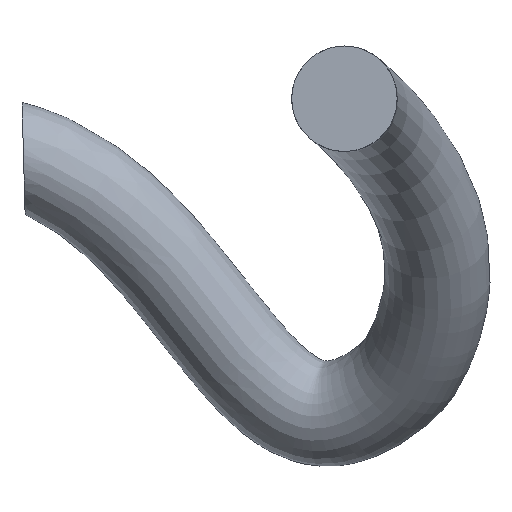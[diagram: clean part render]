
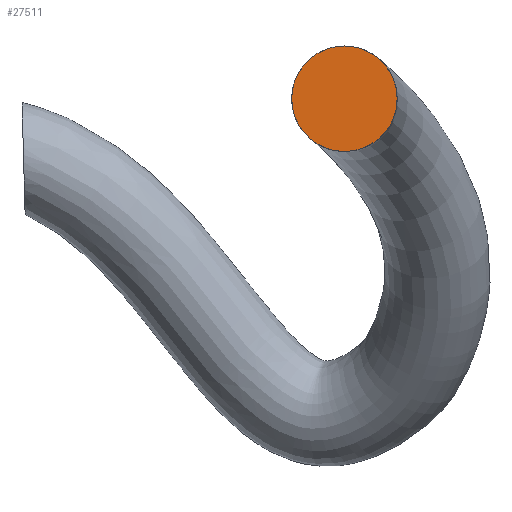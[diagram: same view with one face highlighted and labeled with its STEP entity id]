
A CAD part, front view. The second image highlights one B-rep face of the part: STEP entity #27511.
In plain terms, the highlighted planar face has unit normal (0, -1, 0).
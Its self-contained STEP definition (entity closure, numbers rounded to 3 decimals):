
#929 = DIRECTION ( 'NONE',  ( 0., 1., 0. ) ) ;
#986 = ORIENTED_EDGE ( 'NONE', *, *, #21929, .F. ) ;
#1472 = CARTESIAN_POINT ( 'NONE',  ( 1792., -84.598, 2567. ) ) ;
#5779 = VERTEX_POINT ( 'NONE', #1472 ) ;
#8112 = CIRCLE ( 'NONE', #19613, 43. ) ;
#10408 = AXIS2_PLACEMENT_3D ( 'NONE', #18473, #929, #15579 ) ;
#15579 = DIRECTION ( 'NONE',  ( -1., 0., 0. ) ) ;
#18473 = CARTESIAN_POINT ( 'NONE',  ( 1835., -84.598, 2567. ) ) ;
#19613 = AXIS2_PLACEMENT_3D ( 'NONE', #21114, #43949, #44892 ) ;
#21114 = CARTESIAN_POINT ( 'NONE',  ( 1835., -84.598, 2567. ) ) ;
#21929 = EDGE_CURVE ( 'NONE', #5779, #5779, #8112, .T. ) ;
#26848 = FACE_OUTER_BOUND ( 'NONE', #37967, .T. ) ;
#27511 = ADVANCED_FACE ( 'NONE', ( #26848 ), #45128, .F. ) ;
#37967 = EDGE_LOOP ( 'NONE', ( #986 ) ) ;
#43949 = DIRECTION ( 'NONE',  ( 0., 1., 0. ) ) ;
#44892 = DIRECTION ( 'NONE',  ( -1., 0., 0. ) ) ;
#45128 = PLANE ( 'NONE',  #10408 ) ;
